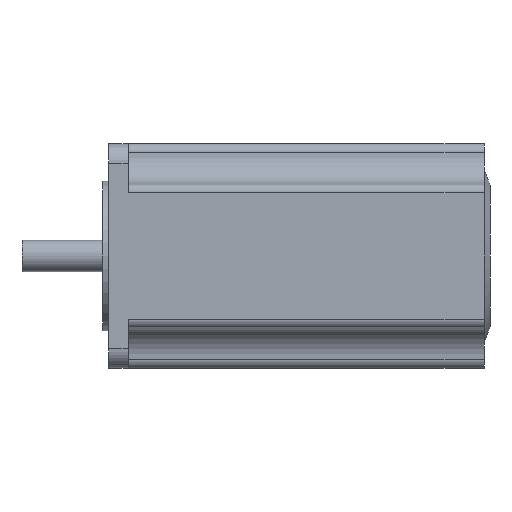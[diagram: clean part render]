
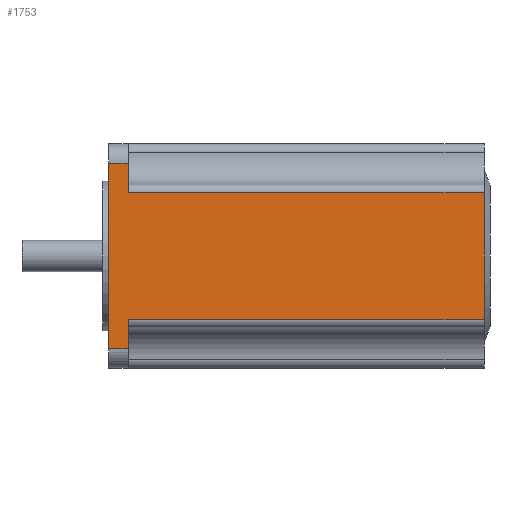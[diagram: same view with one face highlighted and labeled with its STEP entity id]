
A CAD part, left-side view. The second image highlights one B-rep face of the part: STEP entity #1753.
In plain terms, the highlighted planar face has unit normal (-1, 0, 0).
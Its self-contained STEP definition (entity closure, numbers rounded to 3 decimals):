
#36 = CARTESIAN_POINT ( 'NONE',  ( 0., -5., -12.4 ) ) ;
#42 = DIRECTION ( 'NONE',  ( 0., -1., 0. ) ) ;
#59 = LINE ( 'NONE', #421, #556 ) ;
#137 = EDGE_CURVE ( 'NONE', #2350, #613, #59, .T. ) ;
#179 = ORIENTED_EDGE ( 'NONE', *, *, #1661, .F. ) ;
#183 = EDGE_CURVE ( 'NONE', #1144, #1628, #1665, .T. ) ;
#190 = LINE ( 'NONE', #2735, #2406 ) ;
#311 = VECTOR ( 'NONE', #1996, 1000. ) ;
#393 = DIRECTION ( 'NONE',  ( 0., -1., 0. ) ) ;
#421 = CARTESIAN_POINT ( 'NONE',  ( 0., 0., 0. ) ) ;
#538 = DIRECTION ( 'NONE',  ( 0., 1., 0. ) ) ;
#556 = VECTOR ( 'NONE', #2485, 1000. ) ;
#601 = ORIENTED_EDGE ( 'NONE', *, *, #2760, .F. ) ;
#603 = LINE ( 'NONE', #1426, #2125 ) ;
#613 = VERTEX_POINT ( 'NONE', #686 ) ;
#638 = DIRECTION ( 'NONE',  ( 0., 0., 1. ) ) ;
#686 = CARTESIAN_POINT ( 'NONE',  ( 0., 0., -4.93 ) ) ;
#736 = EDGE_LOOP ( 'NONE', ( #1907, #1646, #1435, #2638, #2294, #1601, #601, #179 ) ) ;
#777 = AXIS2_PLACEMENT_3D ( 'NONE', #2093, #2608, #1928 ) ;
#792 = LINE ( 'NONE', #998, #1877 ) ;
#814 = PLANE ( 'NONE',  #777 ) ;
#839 = CARTESIAN_POINT ( 'NONE',  ( 0., -5., -52.07 ) ) ;
#998 = CARTESIAN_POINT ( 'NONE',  ( 0., -5., 0. ) ) ;
#1043 = VERTEX_POINT ( 'NONE', #839 ) ;
#1093 = CARTESIAN_POINT ( 'NONE',  ( 0., -5., -12.4 ) ) ;
#1144 = VERTEX_POINT ( 'NONE', #2757 ) ;
#1161 = CARTESIAN_POINT ( 'NONE',  ( 0., 0., -52.07 ) ) ;
#1166 = CARTESIAN_POINT ( 'NONE',  ( 0., -5., -44.6 ) ) ;
#1222 = VERTEX_POINT ( 'NONE', #1891 ) ;
#1238 = VECTOR ( 'NONE', #2399, 1000. ) ;
#1426 = CARTESIAN_POINT ( 'NONE',  ( 0., -6., -52.07 ) ) ;
#1428 = CARTESIAN_POINT ( 'NONE',  ( 0., -5., -44.6 ) ) ;
#1435 = ORIENTED_EDGE ( 'NONE', *, *, #2623, .F. ) ;
#1442 = VERTEX_POINT ( 'NONE', #2414 ) ;
#1484 = VECTOR ( 'NONE', #42, 1000. ) ;
#1550 = LINE ( 'NONE', #1787, #311 ) ;
#1601 = ORIENTED_EDGE ( 'NONE', *, *, #137, .F. ) ;
#1604 = FACE_OUTER_BOUND ( 'NONE', #736, .T. ) ;
#1628 = VERTEX_POINT ( 'NONE', #1775 ) ;
#1646 = ORIENTED_EDGE ( 'NONE', *, *, #2029, .T. ) ;
#1661 = EDGE_CURVE ( 'NONE', #1144, #1043, #2408, .T. ) ;
#1665 = LINE ( 'NONE', #1428, #2715 ) ;
#1753 = ADVANCED_FACE ( 'NONE', ( #1604 ), #814, .T. ) ;
#1775 = CARTESIAN_POINT ( 'NONE',  ( 0., -95.5, -44.6 ) ) ;
#1787 = CARTESIAN_POINT ( 'NONE',  ( 0., -6., -4.93 ) ) ;
#1877 = VECTOR ( 'NONE', #2706, 1000. ) ;
#1891 = CARTESIAN_POINT ( 'NONE',  ( 0., -5., -4.93 ) ) ;
#1907 = ORIENTED_EDGE ( 'NONE', *, *, #183, .T. ) ;
#1928 = DIRECTION ( 'NONE',  ( 0., 0., 1. ) ) ;
#1996 = DIRECTION ( 'NONE',  ( 0., 1., 0. ) ) ;
#2029 = EDGE_CURVE ( 'NONE', #1628, #1442, #190, .T. ) ;
#2037 = LINE ( 'NONE', #36, #1484 ) ;
#2087 = VERTEX_POINT ( 'NONE', #1093 ) ;
#2093 = CARTESIAN_POINT ( 'NONE',  ( 0., -95.5, 0. ) ) ;
#2125 = VECTOR ( 'NONE', #538, 1000. ) ;
#2294 = ORIENTED_EDGE ( 'NONE', *, *, #2634, .T. ) ;
#2350 = VERTEX_POINT ( 'NONE', #1161 ) ;
#2399 = DIRECTION ( 'NONE',  ( 0., 0., -1. ) ) ;
#2406 = VECTOR ( 'NONE', #638, 1000. ) ;
#2408 = LINE ( 'NONE', #1166, #1238 ) ;
#2414 = CARTESIAN_POINT ( 'NONE',  ( 0., -95.5, -12.4 ) ) ;
#2485 = DIRECTION ( 'NONE',  ( 0., 0., 1. ) ) ;
#2504 = EDGE_CURVE ( 'NONE', #1222, #2087, #792, .T. ) ;
#2608 = DIRECTION ( 'NONE',  ( -1., 0., 0. ) ) ;
#2623 = EDGE_CURVE ( 'NONE', #2087, #1442, #2037, .T. ) ;
#2634 = EDGE_CURVE ( 'NONE', #1222, #613, #1550, .T. ) ;
#2638 = ORIENTED_EDGE ( 'NONE', *, *, #2504, .F. ) ;
#2706 = DIRECTION ( 'NONE',  ( 0., 0., -1. ) ) ;
#2715 = VECTOR ( 'NONE', #393, 1000. ) ;
#2735 = CARTESIAN_POINT ( 'NONE',  ( 0., -95.5, 0. ) ) ;
#2757 = CARTESIAN_POINT ( 'NONE',  ( 0., -5., -44.6 ) ) ;
#2760 = EDGE_CURVE ( 'NONE', #1043, #2350, #603, .T. ) ;
